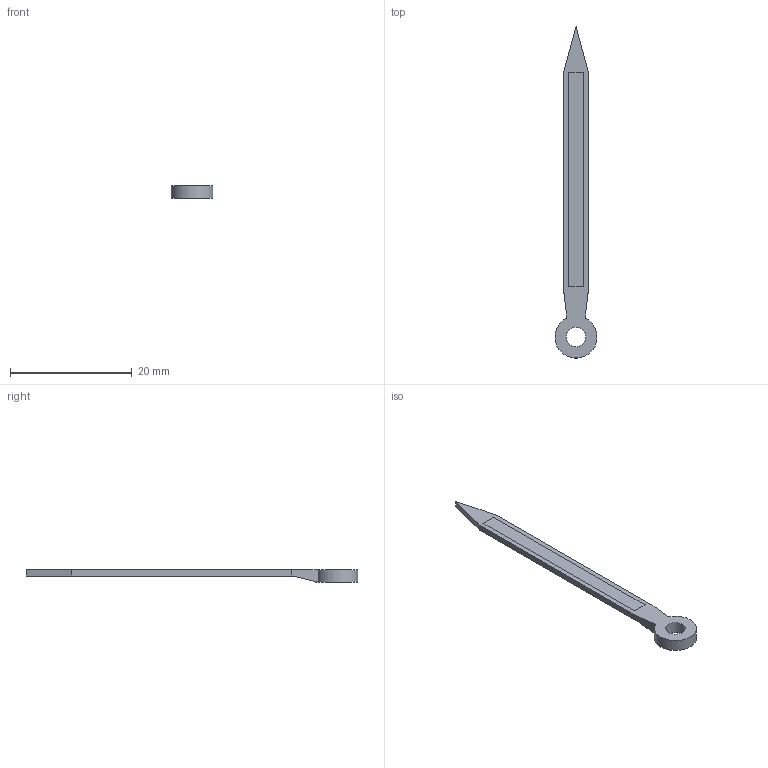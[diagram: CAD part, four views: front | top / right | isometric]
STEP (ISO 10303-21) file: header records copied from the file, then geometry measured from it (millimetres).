
FILE_DESCRIPTION(/* description */ ('STEP AP242','CAx-IF Rec.Pracs.---Representation and Presentation of Product Manufacturing Information (PMI)---4.0---2014-10-13','CAx-IF Rec.Pracs.---3D Tessellated Geometry---0.4---2014-09-14','2;1'),/* implementation_level */ '2;1');
FILE_NAME(/* name */ '66d3700495d81402515f4cfd',/* time_stamp */ '2024-08-31T19:33:24Z',/* author */ (''),/* organization */ (''),/* preprocessor_version */ 'ST-DEVELOPER v20',/* originating_system */ ' ',/* authorisation */ ' ');
FILE_SCHEMA (('AP242_MANAGED_MODEL_BASED_3D_ENGINEERING_MIM_LF { 1 0 10303 442 1 1 4 }'));
Length unit declared in the file: metre
Products named in the file (2): Minutehand
Bounding box: 6.88 x 54.44 x 2 mm (x, y, z)
Volume: 239.3 mm3; surface area: 714.8 mm2
Topology: 2 solids, 2 shells, 22 faces, 52 edges, 34 vertices
Faces by surface type: plane 19, cylinder 2, cone 1
Full cylindrical faces by diameter (mm): 3.2 x1
Entity records: 679 total; most frequent: CARTESIAN_POINT 115, DIRECTION 103, ORIENTED_EDGE 102, EDGE_CURVE 51, LINE 43, VECTOR 43, VERTEX_POINT 34, AXIS2_PLACEMENT_3D 30
